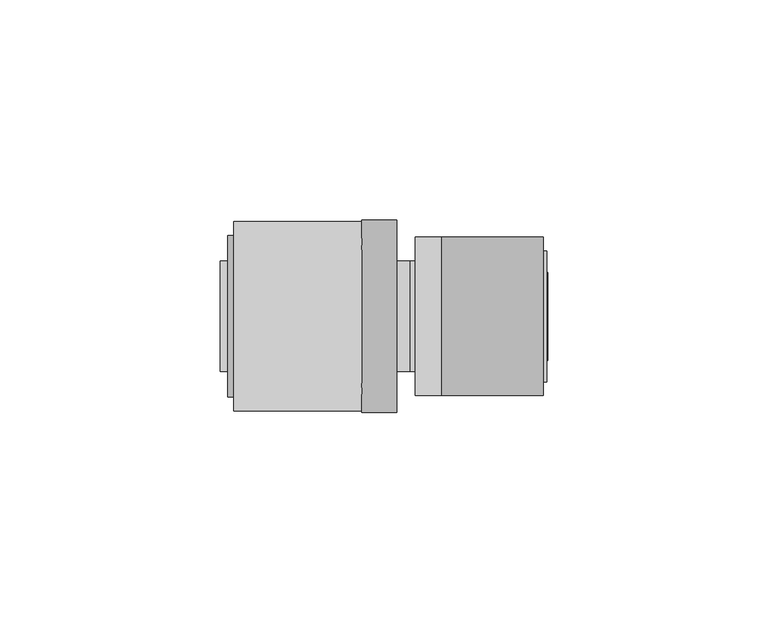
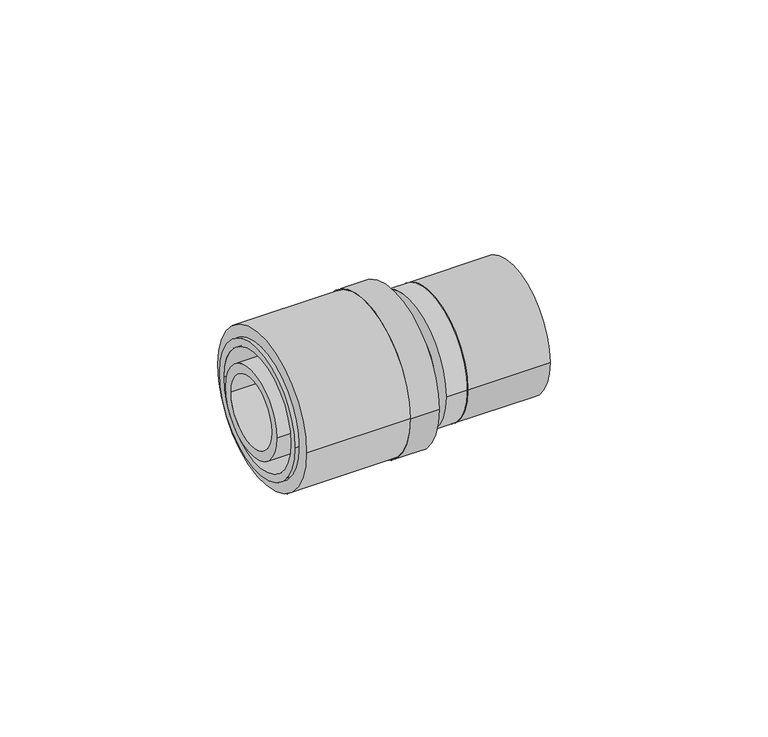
"""IFC4 building model written with IfcOpenShell, lengths in millimetres: pipe fitting geometry, FASTLOC_Coupling reduced EX+ : FSL C RE EX+ AT."""

from ifc_helpers import new_model, si_unit, point, frame, origin, origin_2d, place, context, project, spatial, polyline, circle_curve, trimmed, segment, composite_curve, outline, extrude, source, transform, mapped, element, save
from ifc_brep_helpers import plane_surface, cylinder_surface, revolved_surface, advanced_brep


def pipe_fitting_382bea88(model_context):
    return source(origin(), model_context, "Body", "SolidModel", [
        extrude(outline(composite_curve([segment(trimmed(circle_curve(origin_2d(), 18.0), [point((-18.0, 0.0))], [point((18.0, 0.0))], False, "CARTESIAN"), True, "CONTINUOUS"), segment(trimmed(circle_curve(origin_2d(), 18.0), [point((18.0, 0.0))], [point((-18.0, 0.0))], False, "CARTESIAN"), True, "CONTINUOUS")], self_intersect=False), holes=[composite_curve([segment(trimmed(circle_curve(origin_2d(), 13.5), [point((-13.5, 0.0))], [point((13.5, 0.0))], True, "CARTESIAN"), True, "CONTINUOUS"), segment(trimmed(circle_curve(origin_2d(), 13.5), [point((13.5, 0.0))], [point((-13.5, 0.0))], True, "CARTESIAN"), True, "CONTINUOUS")], self_intersect=False)]), frame((5.8, 0.0, 0.0), z_axis=(1.0, 0.0, 0.0), x_axis=(0.0, 1.0, 0.0)), (0.0, 0.0, 1.0), 23.0),
        advanced_brep(
        [(5.8, 18.0, 0.0), (5.8, -18.0, 0.0), (-0.2, -18.0, 0.0), (-0.2, 18.0, 0.0), (29.6, 14.85, 0.0), (29.6, -14.85, 0.0), (5.8, -14.85, 0.0), (5.8, 14.85, 0.0), (-0.2, 12.65, 0.0), (-0.2, -12.65, 0.0), (29.6, -12.65, 0.0), (29.6, 12.65, 0.0)],
        [
            (0, 1, circle_curve(frame((5.8, 0.0, 0.0), z_axis=(-1.0, 0.0, 0.0), x_axis=(0.0, -1.0, 0.0)), 18.0)),
            (1, 2),
            (2, 3, circle_curve(frame((-0.2, 0.0, 0.0), z_axis=(1.0, 0.0, 0.0), x_axis=(0.0, -1.0, 0.0)), 18.0)),
            (3, 0),
            (4, 5, circle_curve(frame((29.6, 0.0, 0.0), z_axis=(-1.0, 0.0, 0.0), x_axis=(0.0, -1.0, 0.0)), 14.85)),
            (5, 6),
            (6, 7, circle_curve(frame((5.8, 0.0, 0.0), z_axis=(1.0, 0.0, 0.0), x_axis=(0.0, -1.0, 0.0)), 14.85)),
            (7, 4),
            (8, 9, circle_curve(frame((-0.2, 0.0, 0.0), z_axis=(-1.0, 0.0, 0.0), x_axis=(0.0, -1.0, 0.0)), 12.65)),
            (9, 10),
            (10, 11, circle_curve(frame((29.6, 0.0, 0.0), z_axis=(1.0, 0.0, 0.0), x_axis=(0.0, -1.0, 0.0)), 12.65)),
            (11, 8),
            (1, 0, circle_curve(frame((5.8, 0.0, 0.0), z_axis=(-1.0, 0.0, 0.0), x_axis=(0.0, 1.0, 0.0)), 18.0)),
            (3, 2, circle_curve(frame((-0.2, 0.0, 0.0), z_axis=(1.0, 0.0, 0.0), x_axis=(0.0, 1.0, 0.0)), 18.0)),
            (6, 7, circle_curve(frame((5.8, 0.0, 0.0), z_axis=(-1.0, 0.0, 0.0), x_axis=(0.0, 1.0, 0.0)), 14.85)),
            (5, 4, circle_curve(frame((29.6, 0.0, 0.0), z_axis=(-1.0, 0.0, 0.0), x_axis=(0.0, 1.0, 0.0)), 14.85)),
            (10, 11, circle_curve(frame((29.6, 0.0, 0.0), z_axis=(-1.0, 0.0, 0.0), x_axis=(0.0, 1.0, 0.0)), 12.65)),
            (9, 8, circle_curve(frame((-0.2, 0.0, 0.0), z_axis=(-1.0, 0.0, 0.0), x_axis=(0.0, 1.0, 0.0)), 12.65)),
        ],
        [
            cylinder_surface(frame((-0.2, 0.0, 0.0), z_axis=(1.0, 0.0, 0.0), x_axis=(0.0, -1.0, 0.0)), 18.0),
            cylinder_surface(frame((-0.2, 0.0, 0.0), z_axis=(1.0, 0.0, 0.0), x_axis=(0.0, -1.0, 0.0)), 14.85),
            revolved_surface(polyline([(29.6, -12.65, 0.0), (-0.2, -12.65, 0.0)]), (-0.2, 0.0, 0.0), (1.0, 0.0, 0.0)),
            cylinder_surface(frame((-0.2, 0.0, 0.0), z_axis=(1.0, 0.0, 0.0), x_axis=(0.0, 1.0, 0.0)), 18.0),
            plane_surface(frame((5.8, 0.0, 0.0), z_axis=(1.0, 0.0, 0.0), x_axis=(0.0, 1.0, 0.0))),
            cylinder_surface(frame((-0.2, 0.0, 0.0), z_axis=(1.0, 0.0, 0.0), x_axis=(0.0, 1.0, 0.0)), 14.85),
            plane_surface(frame((29.6, 0.0, 0.0), z_axis=(1.0, 0.0, 0.0), x_axis=(0.0, 1.0, 0.0))),
            revolved_surface(polyline([(29.6, 12.65, 0.0), (-0.2, 12.65, 0.0)]), (-0.2, 0.0, 0.0), (1.0, 0.0, 0.0)),
            plane_surface(frame((-0.2, 0.0, 0.0), z_axis=(-1.0, 0.0, 0.0), x_axis=(0.0, 1.0, 0.0))),
        ],
        [
            (0, [[1, 2, 3, 4]]),
            (1, [[5, 6, 7, 8]]),
            (2, [[9, 10, 11, 12]]),
            (3, [[13, -4, 14, -2]]),
            (4, [[-13, -1], [15, -7]]),
            (5, [[16, -8, -15, -6]]),
            (6, [[-16, -5], [17, -11]]),
            (7, [[18, -12, -17, -10]]),
            (8, [[-14, -3], [-18, -9]]),
        ],
    ),
        extrude(outline(composite_curve([segment(trimmed(circle_curve(origin_2d(), 21.5), [point((21.5, 0.0))], [point((-21.5, 0.0))], False, "CARTESIAN"), True, "CONTINUOUS"), segment(trimmed(circle_curve(origin_2d(), 21.5), [point((-21.5, 0.0))], [point((21.5, 0.0))], False, "CARTESIAN"), True, "CONTINUOUS")], self_intersect=False), holes=[composite_curve([segment(trimmed(circle_curve(origin_2d(), 16.85), [point((16.85, 0.0))], [point((-16.85, 0.0))], True, "CARTESIAN"), True, "CONTINUOUS"), segment(trimmed(circle_curve(origin_2d(), 16.85), [point((-16.85, 0.0))], [point((16.85, 0.0))], True, "CARTESIAN"), True, "CONTINUOUS")], self_intersect=False)]), frame((-41.4, 0.0, 0.0), z_axis=(1.0, 0.0, 0.0), x_axis=(0.0, 1.0, 0.0)), (0.0, 0.0, 1.0), 29.0),
        advanced_brep(
        [(-12.4, -21.8, 0.0), (-12.4, 21.8, 0.0), (-4.4, 21.8, 0.0), (-4.4, -21.8, 0.0), (-42.7, -18.35, 0.0), (-42.7, 18.35, 0.0), (-12.4, 18.35, 0.0), (-12.4, -18.35, 0.0), (-4.4, -16.2, 0.0), (-4.4, 16.2, 0.0), (-42.7, 16.2, 0.0), (-42.7, -16.2, 0.0)],
        [
            (0, 1, circle_curve(frame((-12.4, 0.0, 0.0), z_axis=(1.0, 0.0, 0.0), x_axis=(0.0, 1.0, 0.0)), 21.8)),
            (1, 2),
            (2, 3, circle_curve(frame((-4.4, 0.0, 0.0), z_axis=(-1.0, 0.0, 0.0), x_axis=(0.0, 1.0, 0.0)), 21.8)),
            (3, 0),
            (4, 5, circle_curve(frame((-42.7, 0.0, 0.0), z_axis=(1.0, 0.0, 0.0), x_axis=(0.0, 1.0, 0.0)), 18.35)),
            (5, 6),
            (6, 7, circle_curve(frame((-12.4, 0.0, 0.0), z_axis=(-1.0, 0.0, 0.0), x_axis=(0.0, 1.0, 0.0)), 18.35)),
            (7, 4),
            (8, 9, circle_curve(frame((-4.4, 0.0, 0.0), z_axis=(1.0, 0.0, 0.0), x_axis=(0.0, 1.0, 0.0)), 16.2)),
            (9, 10),
            (10, 11, circle_curve(frame((-42.7, 0.0, 0.0), z_axis=(-1.0, 0.0, 0.0), x_axis=(0.0, 1.0, 0.0)), 16.2)),
            (11, 8),
            (1, 0, circle_curve(frame((-12.4, 0.0, 0.0), z_axis=(1.0, 0.0, 0.0), x_axis=(0.0, -1.0, 0.0)), 21.8)),
            (3, 2, circle_curve(frame((-4.4, 0.0, 0.0), z_axis=(-1.0, 0.0, 0.0), x_axis=(0.0, -1.0, 0.0)), 21.8)),
            (6, 7, circle_curve(frame((-12.4, 0.0, 0.0), z_axis=(1.0, 0.0, 0.0), x_axis=(0.0, -1.0, 0.0)), 18.35)),
            (5, 4, circle_curve(frame((-42.7, 0.0, 0.0), z_axis=(1.0, 0.0, 0.0), x_axis=(0.0, -1.0, 0.0)), 18.35)),
            (10, 11, circle_curve(frame((-42.7, 0.0, 0.0), z_axis=(1.0, 0.0, 0.0), x_axis=(0.0, -1.0, 0.0)), 16.2)),
            (9, 8, circle_curve(frame((-4.4, 0.0, 0.0), z_axis=(1.0, 0.0, 0.0), x_axis=(0.0, -1.0, 0.0)), 16.2)),
        ],
        [
            cylinder_surface(frame((-4.4, 0.0, 0.0), z_axis=(-1.0, 0.0, 0.0), x_axis=(0.0, 1.0, 0.0)), 21.8),
            cylinder_surface(frame((-4.4, 0.0, 0.0), z_axis=(-1.0, 0.0, 0.0), x_axis=(0.0, 1.0, 0.0)), 18.35),
            revolved_surface(polyline([(-42.7, 16.2, 0.0), (-4.4, 16.2, 0.0)]), (-4.4, 0.0, 0.0), (-1.0, 0.0, 0.0)),
            cylinder_surface(frame((-4.4, 0.0, 0.0), z_axis=(-1.0, 0.0, 0.0), x_axis=(0.0, -1.0, 0.0)), 21.8),
            plane_surface(frame((-12.4, 0.0, 0.0), z_axis=(-1.0, 0.0, 0.0), x_axis=(0.0, -1.0, 0.0))),
            cylinder_surface(frame((-4.4, 0.0, 0.0), z_axis=(-1.0, 0.0, 0.0), x_axis=(0.0, -1.0, 0.0)), 18.35),
            plane_surface(frame((-42.7, 0.0, 0.0), z_axis=(-1.0, 0.0, 0.0), x_axis=(0.0, -1.0, 0.0))),
            revolved_surface(polyline([(-42.7, -16.2, 0.0), (-4.4, -16.2, 0.0)]), (-4.4, 0.0, 0.0), (-1.0, 0.0, 0.0)),
            plane_surface(frame((-4.4, 0.0, 0.0), z_axis=(1.0, 0.0, 0.0), x_axis=(0.0, -1.0, 0.0))),
        ],
        [
            (0, [[1, 2, 3, 4]]),
            (1, [[5, 6, 7, 8]]),
            (2, [[9, 10, 11, 12]]),
            (3, [[13, -4, 14, -2]]),
            (4, [[-13, -1], [15, -7]]),
            (5, [[16, -8, -15, -6]]),
            (6, [[-16, -5], [17, -11]]),
            (7, [[18, -12, -17, -10]]),
            (8, [[-14, -3], [-18, -9]]),
        ],
    ),
        advanced_brep(
        [(-1.5, 12.5, 0.0), (-1.5, -12.5, 0.0), (-9.4, -12.5, 0.0), (-9.4, 12.5, 0.0), (-9.4, 14.1, 0.0), (-9.4, -14.1, 0.0), (-12.4, -14.1, 0.0), (-12.4, 14.1, 0.0), (-12.4, 12.5, 0.0), (-12.4, -12.5, 0.0), (-44.4, -12.5, 0.0), (-44.4, 12.5, 0.0), (-44.4, 9.85, 0.0), (-44.4, -9.85, 0.0), (-1.5, -9.85, 0.0), (-1.5, 9.85, 0.0), (2.0, 12.5, 0.0), (2.0, -12.5, 0.0), (3.0, 10.0, 0.0), (3.0, -10.0, 0.0), (2.0, -10.0, 0.0), (2.0, 10.0, 0.0), (5.8, 11.5, 0.0), (5.8, -11.5, 0.0), (3.0, -11.5, 0.0), (3.0, 11.5, 0.0), (29.8, 9.9729189, 0.0), (29.8, -9.9729189, 0.0), (5.8, -9.9729189, 0.0), (5.8, 9.9729189, 0.0), (-1.5, 7.75, 0.0), (-1.5, -7.75, 0.0), (29.8, -7.75, 0.0), (29.8, 7.75, 0.0)],
        [
            (0, 1, circle_curve(frame((-1.5, 0.0, 0.0), z_axis=(-1.0, 0.0, 0.0), x_axis=(0.0, -1.0, 0.0)), 12.5)),
            (1, 2),
            (2, 3, circle_curve(frame((-9.4, 0.0, 0.0), z_axis=(1.0, 0.0, 0.0), x_axis=(0.0, -1.0, 0.0)), 12.5)),
            (3, 0),
            (4, 5, circle_curve(frame((-9.4, 0.0, 0.0), z_axis=(-1.0, 0.0, 0.0), x_axis=(0.0, -1.0, 0.0)), 14.1)),
            (5, 6),
            (6, 7, circle_curve(frame((-12.4, 0.0, 0.0), z_axis=(1.0, 0.0, 0.0), x_axis=(0.0, -1.0, 0.0)), 14.1)),
            (7, 4),
            (8, 9, circle_curve(frame((-12.4, 0.0, 0.0), z_axis=(-1.0, 0.0, 0.0), x_axis=(0.0, -1.0, 0.0)), 12.5)),
            (9, 10),
            (10, 11, circle_curve(frame((-44.4, 0.0, 0.0), z_axis=(1.0, 0.0, 0.0), x_axis=(0.0, -1.0, 0.0)), 12.5)),
            (11, 8),
            (12, 13, circle_curve(frame((-44.4, 0.0, 0.0), z_axis=(-1.0, 0.0, 0.0), x_axis=(0.0, -1.0, 0.0)), 9.85)),
            (13, 14),
            (14, 15, circle_curve(frame((-1.5, 0.0, 0.0), z_axis=(1.0, 0.0, 0.0), x_axis=(0.0, -1.0, 0.0)), 9.85)),
            (15, 12),
            (1, 0, circle_curve(frame((-1.5, 0.0, 0.0), z_axis=(-1.0, 0.0, 0.0), x_axis=(0.0, 1.0, 0.0)), 12.5)),
            (3, 2, circle_curve(frame((-9.4, 0.0, 0.0), z_axis=(1.0, 0.0, 0.0), x_axis=(0.0, 1.0, 0.0)), 12.5)),
            (4, 5, circle_curve(frame((-9.4, 0.0, 0.0), z_axis=(1.0, 0.0, 0.0), x_axis=(0.0, 1.0, 0.0)), 14.1)),
            (7, 6, circle_curve(frame((-12.4, 0.0, 0.0), z_axis=(1.0, 0.0, 0.0), x_axis=(0.0, 1.0, 0.0)), 14.1)),
            (8, 9, circle_curve(frame((-12.4, 0.0, 0.0), z_axis=(1.0, 0.0, 0.0), x_axis=(0.0, 1.0, 0.0)), 12.5)),
            (11, 10, circle_curve(frame((-44.4, 0.0, 0.0), z_axis=(1.0, 0.0, 0.0), x_axis=(0.0, 1.0, 0.0)), 12.5)),
            (12, 13, circle_curve(frame((-44.4, 0.0, 0.0), z_axis=(1.0, 0.0, 0.0), x_axis=(0.0, 1.0, 0.0)), 9.85)),
            (15, 14, circle_curve(frame((-1.5, 0.0, 0.0), z_axis=(1.0, 0.0, 0.0), x_axis=(0.0, 1.0, 0.0)), 9.85)),
            (16, 17, circle_curve(frame((2.0, 0.0, 0.0), z_axis=(-1.0, 0.0, 0.0), x_axis=(0.0, -1.0, 0.0)), 12.5)),
            (17, 1),
            (0, 16),
            (18, 19, circle_curve(frame((3.0, 0.0, 0.0), z_axis=(-1.0, 0.0, 0.0), x_axis=(0.0, -1.0, 0.0)), 10.0)),
            (19, 20),
            (20, 21, circle_curve(frame((2.0, 0.0, 0.0), z_axis=(1.0, 0.0, 0.0), x_axis=(0.0, -1.0, 0.0)), 10.0)),
            (21, 18),
            (22, 23, circle_curve(frame((5.8, 0.0, 0.0), z_axis=(-1.0, 0.0, 0.0), x_axis=(0.0, -1.0, 0.0)), 11.5)),
            (23, 24),
            (24, 25, circle_curve(frame((3.0, 0.0, 0.0), z_axis=(1.0, 0.0, 0.0), x_axis=(0.0, -1.0, 0.0)), 11.5)),
            (25, 22),
            (26, 27, circle_curve(frame((29.8, 0.0, 0.0), z_axis=(-1.0, 0.0, 0.0), x_axis=(0.0, -1.0, 0.0)), 9.9729189)),
            (27, 28),
            (28, 29, circle_curve(frame((5.8, 0.0, 0.0), z_axis=(1.0, 0.0, 0.0), x_axis=(0.0, -1.0, 0.0)), 9.9729189)),
            (29, 26),
            (30, 31, circle_curve(frame((-1.5, 0.0, 0.0), z_axis=(-1.0, 0.0, 0.0), x_axis=(0.0, -1.0, 0.0)), 7.75)),
            (31, 32),
            (32, 33, circle_curve(frame((29.8, 0.0, 0.0), z_axis=(1.0, 0.0, 0.0), x_axis=(0.0, -1.0, 0.0)), 7.75)),
            (33, 30),
            (17, 16, circle_curve(frame((2.0, 0.0, 0.0), z_axis=(-1.0, 0.0, 0.0), x_axis=(0.0, 1.0, 0.0)), 12.5)),
            (20, 21, circle_curve(frame((2.0, 0.0, 0.0), z_axis=(-1.0, 0.0, 0.0), x_axis=(0.0, 1.0, 0.0)), 10.0)),
            (19, 18, circle_curve(frame((3.0, 0.0, 0.0), z_axis=(-1.0, 0.0, 0.0), x_axis=(0.0, 1.0, 0.0)), 10.0)),
            (24, 25, circle_curve(frame((3.0, 0.0, 0.0), z_axis=(-1.0, 0.0, 0.0), x_axis=(0.0, 1.0, 0.0)), 11.5)),
            (23, 22, circle_curve(frame((5.8, 0.0, 0.0), z_axis=(-1.0, 0.0, 0.0), x_axis=(0.0, 1.0, 0.0)), 11.5)),
            (28, 29, circle_curve(frame((5.8, 0.0, 0.0), z_axis=(-1.0, 0.0, 0.0), x_axis=(0.0, 1.0, 0.0)), 9.9729189)),
            (27, 26, circle_curve(frame((29.8, 0.0, 0.0), z_axis=(-1.0, 0.0, 0.0), x_axis=(0.0, 1.0, 0.0)), 9.9729189)),
            (32, 33, circle_curve(frame((29.8, 0.0, 0.0), z_axis=(-1.0, 0.0, 0.0), x_axis=(0.0, 1.0, 0.0)), 7.75)),
            (31, 30, circle_curve(frame((-1.5, 0.0, 0.0), z_axis=(-1.0, 0.0, 0.0), x_axis=(0.0, 1.0, 0.0)), 7.75)),
        ],
        [
            cylinder_surface(frame((0.0, 0.0, 0.0), z_axis=(1.0, 0.0, 0.0), x_axis=(0.0, -1.0, 0.0)), 12.5),
            cylinder_surface(frame((0.0, 0.0, 0.0), z_axis=(1.0, 0.0, 0.0), x_axis=(0.0, -1.0, 0.0)), 14.1),
            revolved_surface(polyline([(-1.5, -9.85, 0.0), (-44.4, -9.85, 0.0)]), (0.0, 0.0, 0.0), (1.0, 0.0, 0.0)),
            cylinder_surface(frame((0.0, 0.0, 0.0), z_axis=(1.0, 0.0, 0.0), x_axis=(0.0, 1.0, 0.0)), 12.5),
            plane_surface(frame((-9.4, 0.0, 0.0), z_axis=(1.0, 0.0, 0.0), x_axis=(0.0, 1.0, 0.0))),
            cylinder_surface(frame((0.0, 0.0, 0.0), z_axis=(1.0, 0.0, 0.0), x_axis=(0.0, 1.0, 0.0)), 14.1),
            plane_surface(frame((-12.4, 0.0, 0.0), z_axis=(-1.0, 0.0, 0.0), x_axis=(0.0, 1.0, 0.0))),
            plane_surface(frame((-44.4, 0.0, 0.0), z_axis=(-1.0, 0.0, 0.0), x_axis=(0.0, 1.0, 0.0))),
            revolved_surface(polyline([(-1.5, 9.85, 0.0), (-44.4, 9.85, 0.0)]), (0.0, 0.0, 0.0), (1.0, 0.0, 0.0)),
            cylinder_surface(frame((0.0, 0.0, 0.0), z_axis=(1.0, 0.0, 0.0), x_axis=(0.0, -1.0, 0.0)), 10.0),
            cylinder_surface(frame((0.0, 0.0, 0.0), z_axis=(1.0, 0.0, 0.0), x_axis=(0.0, -1.0, 0.0)), 11.5),
            cylinder_surface(frame((0.0, 0.0, 0.0), z_axis=(1.0, 0.0, 0.0), x_axis=(0.0, -1.0, 0.0)), 9.9729189),
            revolved_surface(polyline([(29.8, -7.75, 0.0), (-1.5, -7.75, 0.0)]), (0.0, 0.0, 0.0), (1.0, 0.0, 0.0)),
            plane_surface(frame((2.0, 0.0, 0.0), z_axis=(1.0, 0.0, 0.0), x_axis=(0.0, 1.0, 0.0))),
            cylinder_surface(frame((0.0, 0.0, 0.0), z_axis=(1.0, 0.0, 0.0), x_axis=(0.0, 1.0, 0.0)), 10.0),
            plane_surface(frame((3.0, 0.0, 0.0), z_axis=(-1.0, 0.0, 0.0), x_axis=(0.0, 1.0, 0.0))),
            cylinder_surface(frame((0.0, 0.0, 0.0), z_axis=(1.0, 0.0, 0.0), x_axis=(0.0, 1.0, 0.0)), 11.5),
            plane_surface(frame((5.8, 0.0, 0.0), z_axis=(1.0, 0.0, 0.0), x_axis=(0.0, 1.0, 0.0))),
            cylinder_surface(frame((0.0, 0.0, 0.0), z_axis=(1.0, 0.0, 0.0), x_axis=(0.0, 1.0, 0.0)), 9.9729189),
            plane_surface(frame((29.8, 0.0, 0.0), z_axis=(1.0, 0.0, 0.0), x_axis=(0.0, 1.0, 0.0))),
            revolved_surface(polyline([(29.8, 7.75, 0.0), (-1.5, 7.75, 0.0)]), (0.0, 0.0, 0.0), (1.0, 0.0, 0.0)),
            plane_surface(frame((-1.5, 0.0, 0.0), z_axis=(-1.0, 0.0, 0.0), x_axis=(0.0, 1.0, 0.0))),
        ],
        [
            (0, [[1, 2, 3, 4]]),
            (1, [[5, 6, 7, 8]]),
            (0, [[9, 10, 11, 12]]),
            (2, [[13, 14, 15, 16]]),
            (3, [[17, -4, 18, -2]]),
            (4, [[19, -5], [-18, -3]]),
            (5, [[-19, -8, 20, -6]]),
            (6, [[-20, -7], [21, -9]]),
            (3, [[-21, -12, 22, -10]]),
            (7, [[-22, -11], [23, -13]]),
            (8, [[-23, -16, 24, -14]]),
            (0, [[25, 26, -1, 27]]),
            (9, [[28, 29, 30, 31]]),
            (10, [[32, 33, 34, 35]]),
            (11, [[36, 37, 38, 39]]),
            (12, [[40, 41, 42, 43]]),
            (3, [[44, -27, -17, -26]]),
            (13, [[-44, -25], [45, -30]]),
            (14, [[46, -31, -45, -29]]),
            (15, [[47, -34], [-46, -28]]),
            (16, [[48, -35, -47, -33]]),
            (17, [[-48, -32], [49, -38]]),
            (18, [[50, -39, -49, -37]]),
            (19, [[-50, -36], [51, -42]]),
            (20, [[52, -43, -51, -41]]),
            (21, [[-24, -15], [-52, -40]]),
        ],
    ),
    ])


if __name__ == "__main__":
    model = new_model("IFC4")
    model_context = context("Model", 3, world=origin())
    ifc_project = project(units=[si_unit("LENGTHUNIT", "METRE", prefix="MILLI")], contexts=[model_context])
    site = spatial("IfcSite", under=ifc_project)
    building = spatial("IfcBuilding", under=site)
    placement = place(None, origin())
    pipe_fitting_shape = pipe_fitting_382bea88(model_context)
    element("IfcPipeFitting", 1, ObjectType="FASTLOC_Coupling reduced EX+ : FSL C RE EX+ AT", at=placement, inside=building, context=model_context, shape_type="MappedRepresentation", body=[
        mapped(pipe_fitting_shape, transform((0.0, 0.0, 0.0), x_axis=(1.0, 0.0, 0.0), y_axis=(0.0, 1.0, 0.0), z_axis=(0.0, 0.0, 1.0))),
    ])
    save(model, "model.ifc")
